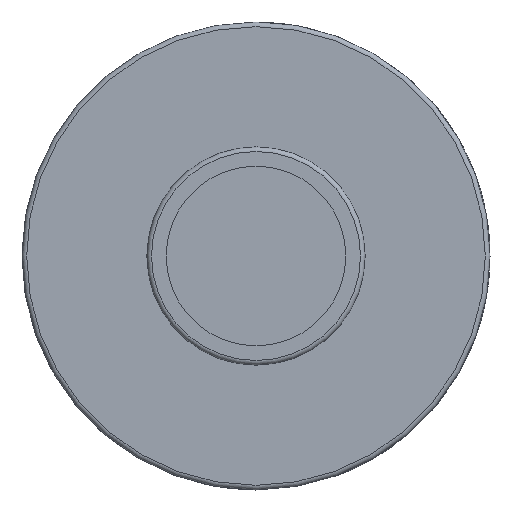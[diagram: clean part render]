
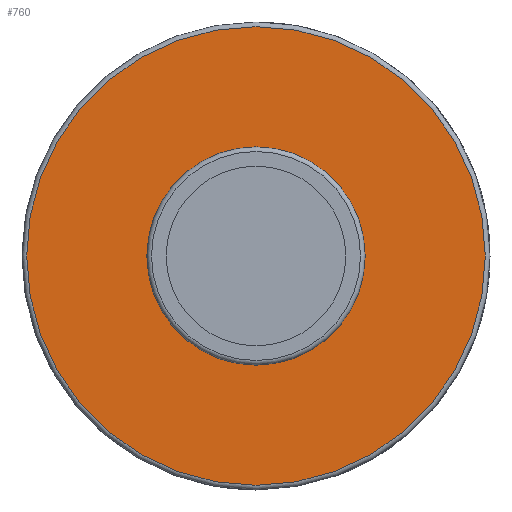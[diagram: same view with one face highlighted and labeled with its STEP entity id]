
A CAD part, left-side view. The second image highlights one B-rep face of the part: STEP entity #760.
In plain terms, the highlighted conical face has half-angle 89.994 degrees and reference radius 27.2 mm.
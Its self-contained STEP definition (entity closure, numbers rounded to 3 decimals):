
#760 = ADVANCED_FACE( '', ( #1611, #1612 ), #1613, .T. );
#1611 = FACE_OUTER_BOUND( '', #3642, .T. );
#1612 = FACE_BOUND( '', #3643, .T. );
#1613 = CONICAL_SURFACE( '', #3644, 27.2, 1.571 );
#3642 = EDGE_LOOP( '', ( #5386 ) );
#3643 = EDGE_LOOP( '', ( #5387 ) );
#3644 = AXIS2_PLACEMENT_3D( '', #5388, #5389, #5390 );
#5386 = ORIENTED_EDGE( '', *, *, #6524, .F. );
#5387 = ORIENTED_EDGE( '', *, *, #6446, .T. );
#5388 = CARTESIAN_POINT( '', ( 13.285, 0., 0. ) );
#5389 = DIRECTION( '', ( 1., 0., 0. ) );
#5390 = DIRECTION( '', ( 0., 1., 0. ) );
#6446 = EDGE_CURVE( '', #7521, #7521, #7522, .T. );
#6524 = EDGE_CURVE( '', #7622, #7622, #7623, .F. );
#7521 = VERTEX_POINT( '', #9603 );
#7522 = CIRCLE( '', #9604, 11.875 );
#7622 = VERTEX_POINT( '', #9850 );
#7623 = CIRCLE( '', #9851, 24.956 );
#9603 = CARTESIAN_POINT( '', ( 13.284, 11.875, 0. ) );
#9604 = AXIS2_PLACEMENT_3D( '', #10584, #10585, #10586 );
#9850 = CARTESIAN_POINT( '', ( 13.285, 0., 24.956 ) );
#9851 = AXIS2_PLACEMENT_3D( '', #10642, #10643, #10644 );
#10584 = CARTESIAN_POINT( '', ( 13.284, 0., 0. ) );
#10585 = DIRECTION( '', ( 1., 0., 0. ) );
#10586 = DIRECTION( '', ( 0., 1., 0. ) );
#10642 = CARTESIAN_POINT( '', ( 13.285, 0., 0. ) );
#10643 = DIRECTION( '', ( -1., 0., 0. ) );
#10644 = DIRECTION( '', ( 0., 0., 1. ) );
